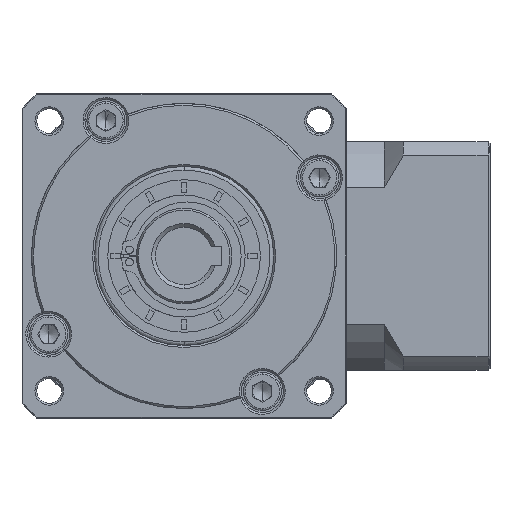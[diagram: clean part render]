
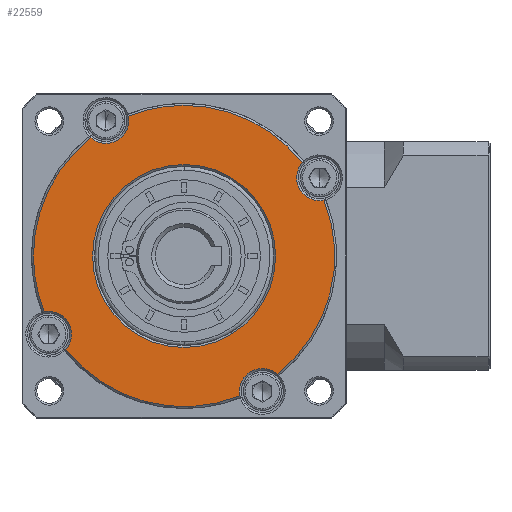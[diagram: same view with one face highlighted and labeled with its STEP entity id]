
A CAD part, left-side view. The second image highlights one B-rep face of the part: STEP entity #22559.
In plain terms, the highlighted planar face has unit normal (-1, 0, 0).
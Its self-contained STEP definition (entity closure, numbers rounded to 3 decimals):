
#1182 = ORIENTED_EDGE ( 'NONE', *, *, #43175, .F. ) ;
#2354 = ORIENTED_EDGE ( 'NONE', *, *, #126158, .T. ) ;
#2489 = ORIENTED_EDGE ( 'NONE', *, *, #21413, .T. ) ;
#2521 = DIRECTION ( 'NONE',  ( 1., 0., 0. ) ) ;
#3318 = CIRCLE ( 'NONE', #117337, 39.5 ) ;
#3717 = FACE_BOUND ( 'NONE', #121213, .T. ) ;
#3889 = EDGE_CURVE ( 'NONE', #127120, #22755, #109839, .T. ) ;
#6601 = CIRCLE ( 'NONE', #20560, 24. ) ;
#8466 = EDGE_CURVE ( 'NONE', #11489, #124182, #76325, .T. ) ;
#9142 = CIRCLE ( 'NONE', #11642, 39.5 ) ;
#11489 = VERTEX_POINT ( 'NONE', #39780 ) ;
#11642 = AXIS2_PLACEMENT_3D ( 'NONE', #71425, #161545, #84349 ) ;
#12472 = CARTESIAN_POINT ( 'NONE',  ( -102.608, -21.383, -80.195 ) ) ;
#12631 = VERTEX_POINT ( 'NONE', #95007 ) ;
#13641 = AXIS2_PLACEMENT_3D ( 'NONE', #119665, #42488, #132590 ) ;
#16737 = AXIS2_PLACEMENT_3D ( 'NONE', #124128, #46931, #137046 ) ;
#17274 = DIRECTION ( 'NONE',  ( 1., 0., 0. ) ) ;
#18110 = DIRECTION ( 'NONE',  ( 1., 0., 0. ) ) ;
#18582 = CIRCLE ( 'NONE', #39222, 24. ) ;
#19382 = CIRCLE ( 'NONE', #140979, 6. ) ;
#19586 = DIRECTION ( 'NONE',  ( 1., 0., 0. ) ) ;
#20560 = AXIS2_PLACEMENT_3D ( 'NONE', #110112, #32909, #123071 ) ;
#21413 = EDGE_CURVE ( 'NONE', #101022, #95950, #18582, .T. ) ;
#22111 = DIRECTION ( 'NONE',  ( 1., 0., 0. ) ) ;
#22556 = CIRCLE ( 'NONE', #162696, 39.5 ) ;
#22559 = ADVANCED_FACE ( 'NONE', ( #38018, #3717 ), #147802, .T. ) ;
#22755 = VERTEX_POINT ( 'NONE', #166850 ) ;
#30333 = ORIENTED_EDGE ( 'NONE', *, *, #36184, .F. ) ;
#30932 = VERTEX_POINT ( 'NONE', #63336 ) ;
#32512 = AXIS2_PLACEMENT_3D ( 'NONE', #99328, #22111, #112325 ) ;
#32909 = DIRECTION ( 'NONE',  ( 1., 0., 0. ) ) ;
#33473 = ORIENTED_EDGE ( 'NONE', *, *, #85290, .F. ) ;
#33820 = DIRECTION ( 'NONE',  ( 1., 0., 0. ) ) ;
#36184 = EDGE_CURVE ( 'NONE', #145000, #100961, #84199, .T. ) ;
#38018 = FACE_OUTER_BOUND ( 'NONE', #74242, .T. ) ;
#39222 = AXIS2_PLACEMENT_3D ( 'NONE', #111017, #33820, #123966 ) ;
#39780 = CARTESIAN_POINT ( 'NONE',  ( -102.608, 15.312, -134.314 ) ) ;
#40979 = CARTESIAN_POINT ( 'NONE',  ( -102.608, -45.853, -150.703 ) ) ;
#42488 = DIRECTION ( 'NONE',  ( 1., 0., 0. ) ) ;
#43175 = EDGE_CURVE ( 'NONE', #12631, #135515, #9142, .T. ) ;
#44511 = CARTESIAN_POINT ( 'NONE',  ( -102.608, -36.002, -156.39 ) ) ;
#45352 = CARTESIAN_POINT ( 'NONE',  ( -102.608, -21.383, -119.695 ) ) ;
#46931 = DIRECTION ( 'NONE',  ( -1., 0., 0. ) ) ;
#48538 = ORIENTED_EDGE ( 'NONE', *, *, #8466, .T. ) ;
#48808 = EDGE_CURVE ( 'NONE', #102722, #145000, #22556, .T. ) ;
#52264 = DIRECTION ( 'NONE',  ( 1., 0., 0. ) ) ;
#55312 = DIRECTION ( 'NONE',  ( 1., 0., 0. ) ) ;
#56473 = EDGE_CURVE ( 'NONE', #11489, #146923, #162411, .T. ) ;
#57290 = AXIS2_PLACEMENT_3D ( 'NONE', #95312, #18110, #108243 ) ;
#58298 = DIRECTION ( 'NONE',  ( 0., 0., 1. ) ) ;
#60868 = CARTESIAN_POINT ( 'NONE',  ( -102.608, -6.764, -83. ) ) ;
#63336 = CARTESIAN_POINT ( 'NONE',  ( -102.608, -56.89, -105.195 ) ) ;
#66976 = DIRECTION ( 'NONE',  ( 1., 0., 0. ) ) ;
#71425 = CARTESIAN_POINT ( 'NONE',  ( -102.608, -21.383, -119.695 ) ) ;
#71677 = CARTESIAN_POINT ( 'NONE',  ( -102.608, 9.625, -144.165 ) ) ;
#71702 = CARTESIAN_POINT ( 'NONE',  ( -102.608, -21.383, -119.695 ) ) ;
#74242 = EDGE_LOOP ( 'NONE', ( #88307, #2354, #167295, #33473, #138092, #48538, #111407, #89271, #1182, #149842, #101068, #30333 ) ) ;
#76325 = CIRCLE ( 'NONE', #126824, 6. ) ;
#79714 = CARTESIAN_POINT ( 'NONE',  ( -102.608, -56.89, -99.195 ) ) ;
#84199 = CIRCLE ( 'NONE', #13641, 39.5 ) ;
#84349 = DIRECTION ( 'NONE',  ( 0., 0., 1. ) ) ;
#84638 = DIRECTION ( 'NONE',  ( 0., 1., 0. ) ) ;
#85290 = EDGE_CURVE ( 'NONE', #146923, #22755, #131304, .T. ) ;
#88307 = ORIENTED_EDGE ( 'NONE', *, *, #48808, .F. ) ;
#89271 = ORIENTED_EDGE ( 'NONE', *, *, #101605, .T. ) ;
#90694 = AXIS2_PLACEMENT_3D ( 'NONE', #94474, #17274, #107413 ) ;
#92678 = DIRECTION ( 'NONE',  ( 0., 0., -1. ) ) ;
#94474 = CARTESIAN_POINT ( 'NONE',  ( -102.608, -41.883, -155.202 ) ) ;
#95007 = CARTESIAN_POINT ( 'NONE',  ( -102.608, -58.078, -105.076 ) ) ;
#95312 = CARTESIAN_POINT ( 'NONE',  ( -102.608, -0.883, -84.188 ) ) ;
#95950 = VERTEX_POINT ( 'NONE', #147530 ) ;
#96772 = CARTESIAN_POINT ( 'NONE',  ( -102.608, -56.89, -99.195 ) ) ;
#97218 = CIRCLE ( 'NONE', #57290, 6. ) ;
#99328 = CARTESIAN_POINT ( 'NONE',  ( -102.608, -21.383, -119.695 ) ) ;
#99672 = AXIS2_PLACEMENT_3D ( 'NONE', #71702, #161840, #84638 ) ;
#100961 = VERTEX_POINT ( 'NONE', #139874 ) ;
#101022 = VERTEX_POINT ( 'NONE', #140957 ) ;
#101068 = ORIENTED_EDGE ( 'NONE', *, *, #117214, .T. ) ;
#101605 = EDGE_CURVE ( 'NONE', #157277, #135515, #130278, .T. ) ;
#102722 = VERTEX_POINT ( 'NONE', #60868 ) ;
#106379 = CIRCLE ( 'NONE', #151873, 6. ) ;
#107413 = DIRECTION ( 'NONE',  ( 0., 0., -1. ) ) ;
#108085 = EDGE_CURVE ( 'NONE', #95950, #101022, #6601, .T. ) ;
#108243 = DIRECTION ( 'NONE',  ( 0., 0., -1. ) ) ;
#109767 = DIRECTION ( 'NONE',  ( 0., 0., -1. ) ) ;
#109839 = CIRCLE ( 'NONE', #132385, 6. ) ;
#110112 = CARTESIAN_POINT ( 'NONE',  ( -102.608, -21.383, -119.695 ) ) ;
#111017 = CARTESIAN_POINT ( 'NONE',  ( -102.608, -21.383, -119.695 ) ) ;
#111407 = ORIENTED_EDGE ( 'NONE', *, *, #146055, .F. ) ;
#112325 = DIRECTION ( 'NONE',  ( 0., 1., 0. ) ) ;
#117214 = EDGE_CURVE ( 'NONE', #30932, #100961, #19382, .T. ) ;
#117337 = AXIS2_PLACEMENT_3D ( 'NONE', #129430, #52264, #142414 ) ;
#119665 = CARTESIAN_POINT ( 'NONE',  ( -102.608, -21.383, -119.695 ) ) ;
#120029 = ORIENTED_EDGE ( 'NONE', *, *, #108085, .T. ) ;
#121213 = EDGE_LOOP ( 'NONE', ( #120029, #2489 ) ) ;
#123071 = DIRECTION ( 'NONE',  ( 0., -1., 0. ) ) ;
#123560 = EDGE_CURVE ( 'NONE', #12631, #30932, #106379, .T. ) ;
#123966 = DIRECTION ( 'NONE',  ( 0., -1., 0. ) ) ;
#124128 = CARTESIAN_POINT ( 'NONE',  ( -102.608, -21.383, -119.695 ) ) ;
#124182 = VERTEX_POINT ( 'NONE', #71677 ) ;
#126158 = EDGE_CURVE ( 'NONE', #102722, #127120, #97218, .T. ) ;
#126824 = AXIS2_PLACEMENT_3D ( 'NONE', #144136, #66976, #157085 ) ;
#127120 = VERTEX_POINT ( 'NONE', #132616 ) ;
#129430 = CARTESIAN_POINT ( 'NONE',  ( -102.608, -21.383, -119.695 ) ) ;
#130278 = CIRCLE ( 'NONE', #90694, 6. ) ;
#131304 = CIRCLE ( 'NONE', #99672, 39.5 ) ;
#132385 = AXIS2_PLACEMENT_3D ( 'NONE', #132482, #55312, #145478 ) ;
#132482 = CARTESIAN_POINT ( 'NONE',  ( -102.608, -0.883, -84.188 ) ) ;
#132590 = DIRECTION ( 'NONE',  ( 0., 0., 1. ) ) ;
#132616 = CARTESIAN_POINT ( 'NONE',  ( -102.608, -0.883, -90.188 ) ) ;
#135440 = DIRECTION ( 'NONE',  ( 1., 0., 0. ) ) ;
#135515 = VERTEX_POINT ( 'NONE', #40979 ) ;
#137046 = DIRECTION ( 'NONE',  ( 0., 0., -1. ) ) ;
#138092 = ORIENTED_EDGE ( 'NONE', *, *, #56473, .F. ) ;
#139874 = CARTESIAN_POINT ( 'NONE',  ( -102.608, -52.391, -95.225 ) ) ;
#140957 = CARTESIAN_POINT ( 'NONE',  ( -102.608, 2.617, -119.695 ) ) ;
#140979 = AXIS2_PLACEMENT_3D ( 'NONE', #79714, #2521, #92678 ) ;
#142414 = DIRECTION ( 'NONE',  ( 0., 0., 1. ) ) ;
#142994 = CARTESIAN_POINT ( 'NONE',  ( -102.608, 18.117, -119.695 ) ) ;
#144136 = CARTESIAN_POINT ( 'NONE',  ( -102.608, 14.124, -140.195 ) ) ;
#145000 = VERTEX_POINT ( 'NONE', #12472 ) ;
#145478 = DIRECTION ( 'NONE',  ( 0., 0., -1. ) ) ;
#146055 = EDGE_CURVE ( 'NONE', #157277, #124182, #3318, .T. ) ;
#146923 = VERTEX_POINT ( 'NONE', #142994 ) ;
#147530 = CARTESIAN_POINT ( 'NONE',  ( -102.608, -45.383, -119.695 ) ) ;
#147802 = PLANE ( 'NONE',  #16737 ) ;
#149842 = ORIENTED_EDGE ( 'NONE', *, *, #123560, .T. ) ;
#151873 = AXIS2_PLACEMENT_3D ( 'NONE', #96772, #19586, #109767 ) ;
#157085 = DIRECTION ( 'NONE',  ( 0., 0., -1. ) ) ;
#157277 = VERTEX_POINT ( 'NONE', #44511 ) ;
#161545 = DIRECTION ( 'NONE',  ( 1., 0., 0. ) ) ;
#161840 = DIRECTION ( 'NONE',  ( 1., 0., 0. ) ) ;
#162411 = CIRCLE ( 'NONE', #32512, 39.5 ) ;
#162696 = AXIS2_PLACEMENT_3D ( 'NONE', #45352, #135440, #58298 ) ;
#166850 = CARTESIAN_POINT ( 'NONE',  ( -102.608, 3.087, -88.687 ) ) ;
#167295 = ORIENTED_EDGE ( 'NONE', *, *, #3889, .T. ) ;
